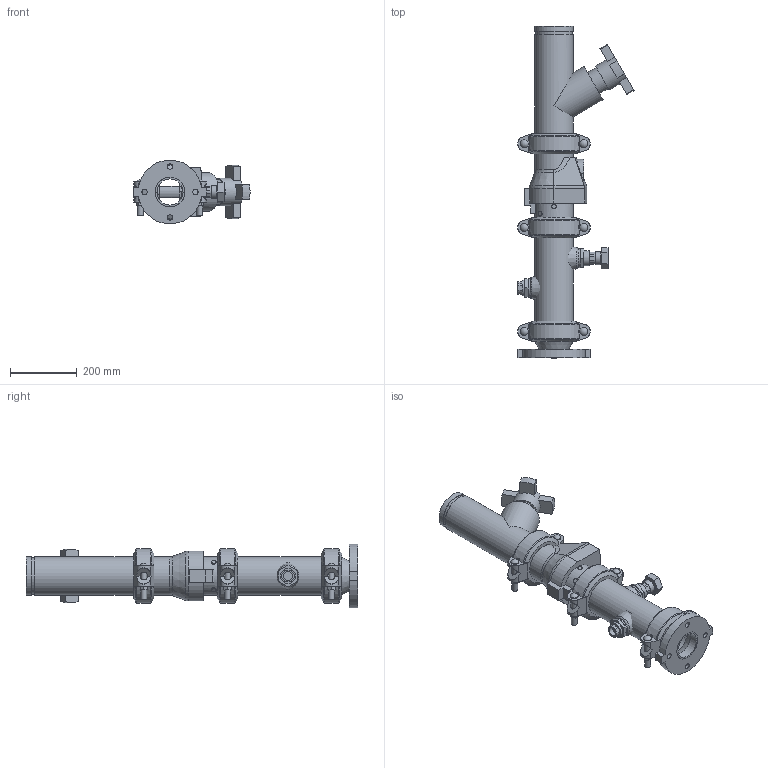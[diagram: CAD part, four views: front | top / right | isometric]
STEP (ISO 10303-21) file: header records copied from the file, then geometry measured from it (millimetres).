
FILE_DESCRIPTION(/* description */ ('VIC DVI PUMP DROP VERT S/383 (OGSxFLG) (S/924-1.25)','CAx-IF Rec.Pracs.---Representation and Presentation of Product Manufacturing Information (PMI)---4.0---2014-10-13'),/* implementation_level */ '2;1');
FILE_NAME(/* name */ 'C:\Users\Public\Documents\Victaulic.Temp\A849\Victaulic_IPS_Vertical DVI_CL 150_Series 383 (OGSxFLG)_924 (1.25)_04.0x03.0 (100x80).stp',/* time_stamp */ '2022-07-25T11:39:05+02:00',/* author */ ('Vjadhav'),/* organization */ ('Victaulic'),/* preprocessor_version */ 'ST-DEVELOPER v18',/* originating_system */ 'Autodesk Inventor 2020',/* authorisation */ '');
FILE_SCHEMA (('AP242_MANAGED_MODEL_BASED_3D_ENGINEERING_MIM_LF { 1 0 10303 442 1 1 4 }'));
Length unit declared in the file: inch
Products named in the file (9): 383_924 (1.25)-04.0x03.0; 741-03.0; 050-04.0x03.0; Pipe-04.0; 177N-04.0; 789-04.0; 779-04.0; 924-04.0x01.25; 923-04.0x0.75
Assembly tree (10 placements, depth 2):
  383_924 (1.25)-04.0x03.0
    741-03.0
    050-04.0x03.0
    177N-04.0  x3
    Pipe-04.0
    789-04.0
    779-04.0
    924-04.0x01.25
    923-04.0x0.75
Bounding box: 347.73 x 993.9 x 189.82 mm (x, y, z)
Volume: 7661402.8 mm3; surface area: 1262636 mm2
Topology: 10 solids, 11 shells, 547 faces, 1460 edges, 975 vertices
Faces by surface type: plane 322, cylinder 180, cone 19, torus 18, sphere 6, bspline 2
Full cylindrical faces by diameter (mm): 13.716 x2, 15.875 x4, 17.424 x6, 21.336 x1, 23.495 x6, 26.67 x2, 38.608 x1, 42.164 x1, 45.974 x4, 48.514 x1, 55.626 x2, 72.39 x1, 77.927 x1, 82.55 x1, 84.938 x1, 88.9 x3, 101.6 x3, 102.26 x4, 110.084 x7, 114.3 x19
Entity records: 12448 total; most frequent: CARTESIAN_POINT 2503, DIRECTION 2046, ORIENTED_EDGE 1868, EDGE_CURVE 934, AXIS2_PLACEMENT_3D 776, VERTEX_POINT 631, LINE 494, VECTOR 494
